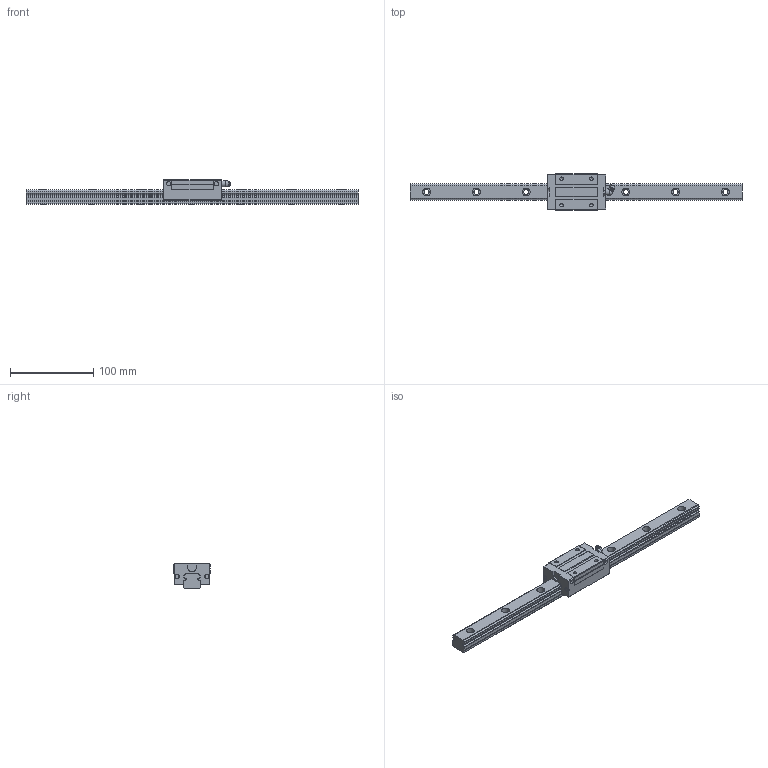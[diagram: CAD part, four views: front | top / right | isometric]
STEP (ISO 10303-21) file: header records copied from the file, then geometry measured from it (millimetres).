
FILE_DESCRIPTION((''),'2;1');
FILE_NAME('D:\製品 (図面)\カタログ用3D\リニアガイド関連\STEP形式\LGHR\LGHR20.stp','2010-06-02T15:52:04',('Tsuchiya'),(''),'Autodesk Inventor 10','Autodesk Inventor 10','');
FILE_SCHEMA(('AUTOMOTIVE_DESIGN { 1 0 10303 214 1 1 1 1 }'));
Length unit declared in the file: millimetre
Products named in the file (3): LGHR20; LGHR201; LGHR202
Assembly tree (2 placements, depth 2):
  LGHR20
    LGHR201
    LGHR202
Bounding box: 400 x 44 x 30 mm (x, y, z)
Volume: 186046.8 mm3; surface area: 50746.8 mm2
Topology: 2 solids, 2 shells, 181 faces, 467 edges, 308 vertices
Faces by surface type: plane 88, cylinder 45, bspline 41, cone 4, sphere 3
Full cylindrical faces by diameter (mm): 4.134 x2, 4.5 x2, 5.2 x2, 5.5 x2, 7 x1, 7.7 x1
Entity records: 5816 total; most frequent: CARTESIAN_POINT 1556, DIRECTION 842, ORIENTED_EDGE 824, EDGE_CURVE 412, VERTEX_POINT 298, AXIS2_PLACEMENT_3D 289, VECTOR 264, LINE 264
